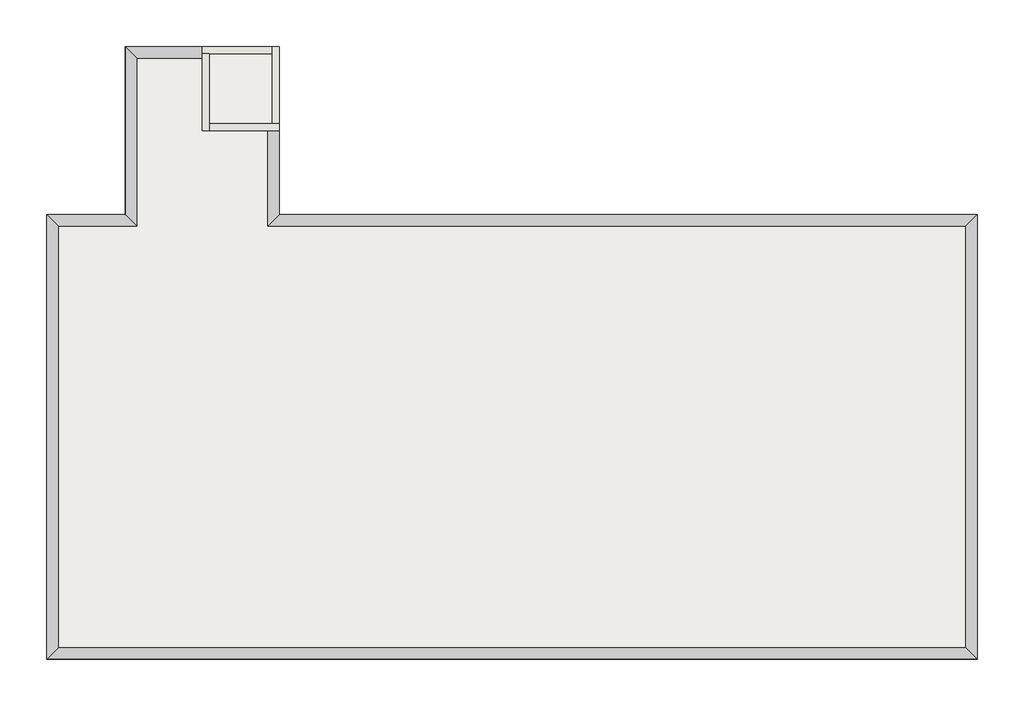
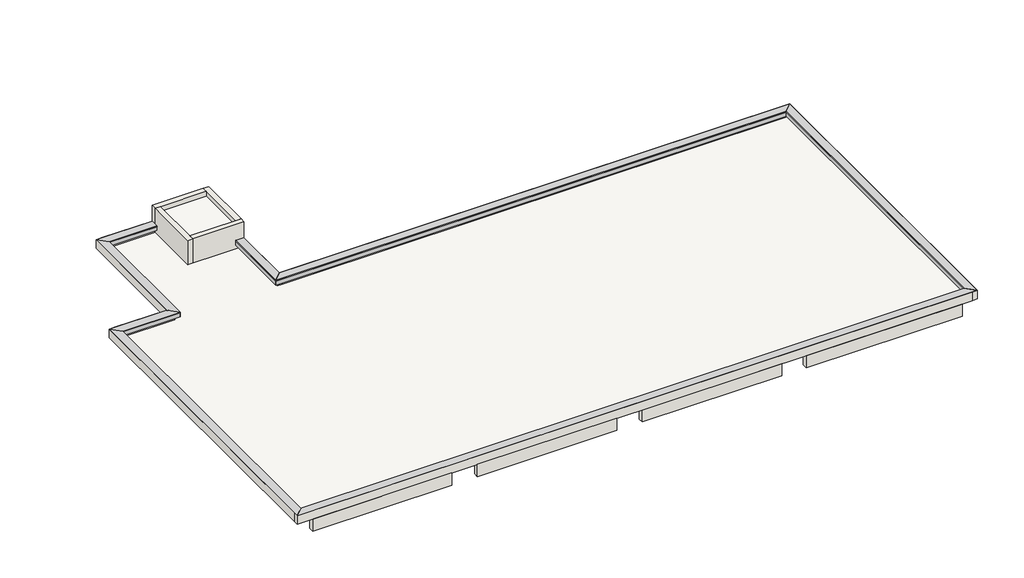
# One storey: 16 proxies, 16 walls, 2 slabs.
"""IFC4 building model written with IfcOpenShell, lengths in millimetres."""

from ifc_helpers import new_model, si_unit, frame, origin, place, context, project, spatial, polyline, outline, extrude, faceted_brep, element, save

model = new_model("IFC4")

# Units and contexts
model_context = context("Model", 3, world=origin())
ifc_project = project(units=[si_unit("LENGTHUNIT", "METRE", prefix="MILLI")], contexts=[model_context])

# Site, building, storey
site = spatial("IfcSite", under=ifc_project)
building = spatial("IfcBuilding", under=site)
storey = spatial("IfcBuildingStorey", under=building, Name="RSL", Elevation=13000.0)

# Proxies
placement = place(None, origin())
element("IfcBuildingElementProxy", 1, Name="Reveals", at=placement, inside=storey, context=model_context, shape_type="Brep", body=[
    faceted_brep([(-4958.7187246, -1750.1171638, 13320.0), (-4958.7187246, -1750.1171638, 13350.0), (-4628.7187246, -1750.1171638, 13350.0), (-4958.7187246, -4480.1171638, 13320.0), (-4628.7187246, -4150.1171638, 13350.0), (-4958.7187246, -4480.1171638, 13350.0)], [[[0, 1, 2]], [[3, 4, 5]], [[1, 0, 3, 5]], [[2, 1, 5, 4]], [[0, 2, 4, 3]]]),
])
element("IfcBuildingElementProxy", 2, Name="Wall Sweeps", at=placement, inside=storey, context=model_context, shape_type="Brep", body=[
    faceted_brep([(-4958.7187246, -1750.1171638, 13160.0), (-4958.7187246, -1750.1171638, 13320.0), (-4628.7187246, -1750.1171638, 13350.0), (-4828.7187246, -1750.1171638, 13160.0), (-4958.7187246, -4480.1171638, 13160.0), (-4828.7187246, -4350.1171638, 13160.0), (-4628.7187246, -4150.1171638, 13350.0), (-4958.7187246, -4480.1171638, 13320.0)], [[[0, 1, 2, 3]], [[4, 5, 6, 7]], [[1, 0, 4, 7]], [[2, 1, 7, 6]], [[3, 2, 6, 5]], [[0, 3, 5, 4]]]),
])
element("IfcBuildingElementProxy", 3, Name="Reveals", at=placement, inside=storey, context=model_context, shape_type="Brep", body=[
    faceted_brep([(-4958.7187246, -4480.1171638, 13320.0), (-4958.7187246, -4480.1171638, 13350.0), (-4628.7187246, -4150.1171638, 13350.0), (14991.2812754, -4480.1171638, 13320.0), (15321.2812754, -4150.1171638, 13350.0), (14991.2812754, -4480.1171638, 13350.0)], [[[0, 1, 2]], [[3, 4, 5]], [[1, 0, 3, 5]], [[2, 1, 5, 4]], [[0, 2, 4, 3]]]),
])
element("IfcBuildingElementProxy", 4, Name="Wall Sweeps", at=placement, inside=storey, context=model_context, shape_type="Brep", body=[
    faceted_brep([(-4958.7187246, -4480.1171638, 13160.0), (-4958.7187246, -4480.1171638, 13320.0), (-4628.7187246, -4150.1171638, 13350.0), (-4828.7187246, -4350.1171638, 13160.0), (14991.2812754, -4480.1171638, 13160.0), (15121.2812754, -4350.1171638, 13160.0), (15321.2812754, -4150.1171638, 13350.0), (14991.2812754, -4480.1171638, 13320.0)], [[[0, 1, 2, 3]], [[4, 5, 6, 7]], [[1, 0, 4, 7]], [[2, 1, 7, 6]], [[3, 2, 6, 5]], [[0, 3, 5, 4]]]),
])
element("IfcBuildingElementProxy", 5, Name="Reveals", at=placement, inside=storey, context=model_context, shape_type="Brep", body=[
    faceted_brep([(14991.2812754, -4480.1171638, 13320.0), (14991.2812754, -4480.1171638, 13350.0), (15321.2812754, -4150.1171638, 13350.0), (14991.2812754, -16540.1171638, 13320.0), (15321.2812754, -16870.1171638, 13350.0), (14991.2812754, -16540.1171638, 13350.0)], [[[0, 1, 2]], [[3, 4, 5]], [[1, 0, 3, 5]], [[2, 1, 5, 4]], [[0, 2, 4, 3]]]),
])
element("IfcBuildingElementProxy", 6, Name="Wall Sweeps", at=placement, inside=storey, context=model_context, shape_type="Brep", body=[
    faceted_brep([(14991.2812754, -4480.1171638, 13160.0), (14991.2812754, -4480.1171638, 13320.0), (15321.2812754, -4150.1171638, 13350.0), (15121.2812754, -4350.1171638, 13160.0), (14991.2812754, -16540.1171638, 13160.0), (15121.2812754, -16670.1171638, 13160.0), (15321.2812754, -16870.1171638, 13350.0), (14991.2812754, -16540.1171638, 13320.0)], [[[0, 1, 2, 3]], [[4, 5, 6, 7]], [[1, 0, 4, 7]], [[2, 1, 7, 6]], [[3, 2, 6, 5]], [[0, 3, 5, 4]]]),
])
element("IfcBuildingElementProxy", 7, Name="Reveals", at=placement, inside=storey, context=model_context, shape_type="Brep", body=[
    faceted_brep([(14991.2812754, -16540.1171638, 13320.0), (14991.2812754, -16540.1171638, 13350.0), (15321.2812754, -16870.1171638, 13350.0), (-10948.7187246, -16540.1171638, 13320.0), (-11278.7187246, -16870.1171638, 13350.0), (-10948.7187246, -16540.1171638, 13350.0)], [[[0, 1, 2]], [[3, 4, 5]], [[1, 0, 3, 5]], [[2, 1, 5, 4]], [[0, 2, 4, 3]]]),
])
element("IfcBuildingElementProxy", 8, Name="Wall Sweeps", at=placement, inside=storey, context=model_context, shape_type="Brep", body=[
    faceted_brep([(14991.2812754, -16540.1171638, 13160.0), (14991.2812754, -16540.1171638, 13320.0), (15321.2812754, -16870.1171638, 13350.0), (15121.2812754, -16670.1171638, 13160.0), (-10948.7187246, -16540.1171638, 13160.0), (-11078.7187246, -16670.1171638, 13160.0), (-11278.7187246, -16870.1171638, 13350.0), (-10948.7187246, -16540.1171638, 13320.0)], [[[0, 1, 2, 3]], [[4, 5, 6, 7]], [[1, 0, 4, 7]], [[2, 1, 7, 6]], [[3, 2, 6, 5]], [[0, 3, 5, 4]]]),
])
element("IfcBuildingElementProxy", 9, Name="Reveals", at=placement, inside=storey, context=model_context, shape_type="Brep", body=[
    faceted_brep([(-10948.7187246, -16540.1171638, 13320.0), (-10948.7187246, -16540.1171638, 13350.0), (-11278.7187246, -16870.1171638, 13350.0), (-10948.7187246, -4480.1171638, 13320.0), (-11278.7187246, -4150.1171638, 13350.0), (-10948.7187246, -4480.1171638, 13350.0)], [[[0, 1, 2]], [[3, 4, 5]], [[1, 0, 3, 5]], [[2, 1, 5, 4]], [[0, 2, 4, 3]]]),
])
element("IfcBuildingElementProxy", 10, Name="Wall Sweeps", at=placement, inside=storey, context=model_context, shape_type="Brep", body=[
    faceted_brep([(-10948.7187246, -16540.1171638, 13160.0), (-10948.7187246, -16540.1171638, 13320.0), (-11278.7187246, -16870.1171638, 13350.0), (-11078.7187246, -16670.1171638, 13160.0), (-10948.7187246, -4480.1171638, 13160.0), (-11078.7187246, -4350.1171638, 13160.0), (-11278.7187246, -4150.1171638, 13350.0), (-10948.7187246, -4480.1171638, 13320.0)], [[[0, 1, 2, 3]], [[4, 5, 6, 7]], [[1, 0, 4, 7]], [[2, 1, 7, 6]], [[3, 2, 6, 5]], [[0, 3, 5, 4]]]),
])
element("IfcBuildingElementProxy", 11, Name="Reveals", at=placement, inside=storey, context=model_context, shape_type="Brep", body=[
    faceted_brep([(-10948.7187246, -4480.1171638, 13320.0), (-10948.7187246, -4480.1171638, 13350.0), (-11278.7187246, -4150.1171638, 13350.0), (-8698.7187246, -4480.1171638, 13320.0), (-9028.7187246, -4150.1171638, 13350.0), (-8698.7187246, -4480.1171638, 13350.0)], [[[0, 1, 2]], [[3, 4, 5]], [[1, 0, 3, 5]], [[2, 1, 5, 4]], [[0, 2, 4, 3]]]),
])
element("IfcBuildingElementProxy", 12, Name="Wall Sweeps", at=placement, inside=storey, context=model_context, shape_type="Brep", body=[
    faceted_brep([(-10948.7187246, -4480.1171638, 13160.0), (-10948.7187246, -4480.1171638, 13320.0), (-11278.7187246, -4150.1171638, 13350.0), (-11078.7187246, -4350.1171638, 13160.0), (-8698.7187246, -4480.1171638, 13160.0), (-8828.7187246, -4350.1171638, 13160.0), (-9028.7187246, -4150.1171638, 13350.0), (-8698.7187246, -4480.1171638, 13320.0)], [[[0, 1, 2, 3]], [[4, 5, 6, 7]], [[1, 0, 4, 7]], [[2, 1, 7, 6]], [[3, 2, 6, 5]], [[0, 3, 5, 4]]]),
])
element("IfcBuildingElementProxy", 13, Name="Reveals", at=placement, inside=storey, context=model_context, shape_type="Brep", body=[
    faceted_brep([(-8698.7187246, -4480.1171638, 13320.0), (-8698.7187246, -4480.1171638, 13350.0), (-9028.7187246, -4150.1171638, 13350.0), (-8698.7187246, 319.8828362, 13320.0), (-9028.7187246, 649.8828362, 13350.0), (-8698.7187246, 319.8828362, 13350.0)], [[[0, 1, 2]], [[3, 4, 5]], [[1, 0, 3, 5]], [[2, 1, 5, 4]], [[0, 2, 4, 3]]]),
])
element("IfcBuildingElementProxy", 14, Name="Wall Sweeps", at=placement, inside=storey, context=model_context, shape_type="Brep", body=[
    faceted_brep([(-8698.7187246, -4480.1171638, 13160.0), (-8698.7187246, -4480.1171638, 13320.0), (-9028.7187246, -4150.1171638, 13350.0), (-8828.7187246, -4350.1171638, 13160.0), (-8698.7187246, 319.8828362, 13160.0), (-8828.7187246, 449.8828362, 13160.0), (-9028.7187246, 649.8828362, 13350.0), (-8698.7187246, 319.8828362, 13320.0)], [[[0, 1, 2, 3]], [[4, 5, 6, 7]], [[1, 0, 4, 7]], [[2, 1, 7, 6]], [[3, 2, 6, 5]], [[0, 3, 5, 4]]]),
])
element("IfcBuildingElementProxy", 15, Name="Reveals", at=placement, inside=storey, context=model_context, shape_type="Brep", body=[
    faceted_brep([(-8698.7187246, 319.8828362, 13320.0), (-8698.7187246, 319.8828362, 13350.0), (-9028.7187246, 649.8828362, 13350.0), (-6828.7187246, 319.8828362, 13320.0), (-6828.7187246, 649.8828362, 13350.0), (-6828.7187246, 319.8828362, 13350.0)], [[[0, 1, 2]], [[3, 4, 5]], [[1, 0, 3, 5]], [[2, 1, 5, 4]], [[0, 2, 4, 3]]]),
])
element("IfcBuildingElementProxy", 16, Name="Wall Sweeps", at=placement, inside=storey, context=model_context, shape_type="Brep", body=[
    faceted_brep([(-8698.7187246, 319.8828362, 13160.0), (-8698.7187246, 319.8828362, 13320.0), (-9028.7187246, 649.8828362, 13350.0), (-8828.7187246, 449.8828362, 13160.0), (-6828.7187246, 319.8828362, 13160.0), (-6828.7187246, 449.8828362, 13160.0), (-6828.7187246, 649.8828362, 13350.0), (-6828.7187246, 319.8828362, 13320.0)], [[[0, 1, 2, 3]], [[4, 5, 6, 7]], [[1, 0, 4, 7]], [[2, 1, 7, 6]], [[3, 2, 6, 5]], [[0, 3, 5, 4]]]),
])

# Slabs
element("IfcSlab", 17, ObjectType="RC150", at=placement, inside=storey, context=model_context, shape_type="SweptSolid", body=[
    extrude(outline(polyline([(-4828.7187246, 449.8828362), (-4828.7187246, -1550.1171638), (-6628.7187246, -1550.1171638), (-6628.7187246, 449.8828362), (-4828.7187246, 449.8828362)])), frame((0.0, 0.0, 13650.0), z_axis=(0.0, 0.0, 1.0), x_axis=(1.0, 0.0, 0.0)), (0.0, 0.0, 1.0), 150.0),
])
element("IfcSlab", 18, ObjectType="RC150", at=placement, inside=storey, context=model_context, shape_type="SweptSolid", body=[
    extrude(outline(polyline([(15121.2812754, -4350.1171638), (15121.2812754, -16670.1171638), (-11078.7187246, -16670.1171638), (-11078.7187246, -4350.1171638), (-8828.7187246, -4350.1171638), (-8828.7187246, 449.8828362), (-6828.7187246, 449.8828362), (-6828.7187246, -1750.1171638), (-4828.7187246, -1750.1171638), (-4828.7187246, -4350.1171638), (15121.2812754, -4350.1171638)])), frame((0.0, 0.0, 12850.0), z_axis=(0.0, 0.0, 1.0), x_axis=(1.0, 0.0, 0.0)), (0.0, 0.0, 1.0), 150.0),
])

# Walls
element("IfcWall", 19, ObjectType="(R)RC200", at=placement, inside=storey, context=model_context, shape_type="SweptSolid", body=[
    extrude(outline(polyline([(-5228.7187246, -16870.1171638), (-10678.7187246, -16870.1171638), (-10678.7187246, -16670.1171638), (-5228.7187246, -16670.1171638), (-5228.7187246, -16870.1171638)])), frame((0.0, 0.0, 12500.0), z_axis=(0.0, 0.0, 1.0), x_axis=(1.0, 0.0, 0.0)), (0.0, 0.0, 1.0), 500.0),
])
element("IfcWall", 20, ObjectType="(R)RC200", at=placement, inside=storey, context=model_context, shape_type="SweptSolid", body=[
    extrude(outline(polyline([(1221.2812754, -16870.1171638), (-4228.7187246, -16870.1171638), (-4228.7187246, -16670.1171638), (1221.2812754, -16670.1171638), (1221.2812754, -16870.1171638)])), frame((0.0, 0.0, 12500.0), z_axis=(0.0, 0.0, 1.0), x_axis=(1.0, 0.0, 0.0)), (0.0, 0.0, 1.0), 500.0),
])
element("IfcWall", 21, ObjectType="(R)RC200", at=placement, inside=storey, context=model_context, shape_type="SweptSolid", body=[
    extrude(outline(polyline([(7671.2812754, -16870.1171638), (2221.2812754, -16870.1171638), (2221.2812754, -16670.1171638), (7671.2812754, -16670.1171638), (7671.2812754, -16870.1171638)])), frame((0.0, 0.0, 12500.0), z_axis=(0.0, 0.0, 1.0), x_axis=(1.0, 0.0, 0.0)), (0.0, 0.0, 1.0), 500.0),
])
element("IfcWall", 22, ObjectType="(R)RC200", at=placement, inside=storey, context=model_context, shape_type="SweptSolid", body=[
    extrude(outline(polyline([(14721.2812754, -16870.1171638), (8621.2812754, -16870.1171638), (8621.2812754, -16670.1171638), (14721.2812754, -16670.1171638), (14721.2812754, -16870.1171638)])), frame((0.0, 0.0, 12500.0), z_axis=(0.0, 0.0, 1.0), x_axis=(1.0, 0.0, 0.0)), (0.0, 0.0, 1.0), 500.0),
])
element("IfcWall", 23, ObjectType="(R)RC200", at=placement, inside=storey, context=model_context, shape_type="Brep", body=[
    faceted_brep([(-6828.7187246, 449.8828362, 14000.0), (-6828.7187246, 449.8828362, 13160.0), (-6828.7187246, 449.8828362, 13000.0), (-6628.7187246, 449.8828362, 13000.0), (-4828.7187246, 449.8828362, 13000.0), (-4828.7187246, 449.8828362, 13650.0), (-4828.7187246, 449.8828362, 13800.0), (-4828.7187246, 449.8828362, 14000.0), (-6628.7187246, 449.8828362, 14000.0), (-6828.7187246, 649.8828362, 13000.0), (-6828.7187246, 649.8828362, 13350.0), (-6828.7187246, 649.8828362, 14000.0), (-4828.7187246, 649.8828362, 14000.0), (-4828.7187246, 649.8828362, 13000.0)], [[[0, 1, 2, 3, 4, 5, 6, 7, 8]], [[9, 10, 11, 12, 13]], [[4, 3, 2, 9, 13]], [[0, 8, 7, 12, 11]], [[7, 6, 5, 4, 13, 12]], [[0, 11, 10, 9, 2, 1]]]),
])
element("IfcWall", 24, ObjectType="(R)RC200", at=placement, inside=storey, context=model_context, shape_type="Brep", body=[
    faceted_brep([(-6628.7187246, -1750.1171638, 13000.0), (-6628.7187246, -1550.1171638, 13000.0), (-6628.7187246, 449.8828362, 13000.0), (-6628.7187246, 449.8828362, 13650.0), (-6628.7187246, 449.8828362, 13800.0), (-6628.7187246, 449.8828362, 14000.0), (-6628.7187246, -1550.1171638, 14000.0), (-6628.7187246, -1750.1171638, 14000.0), (-6828.7187246, -1750.1171638, 13000.0), (-6828.7187246, -1750.1171638, 14000.0), (-6828.7187246, 449.8828362, 14000.0), (-6828.7187246, 449.8828362, 13000.0)], [[[0, 1, 2, 3, 4, 5, 6, 7]], [[8, 9, 10, 11]], [[2, 1, 0, 8, 11]], [[7, 6, 5, 10, 9]], [[0, 7, 9, 8]], [[2, 11, 10, 5, 4, 3]]]),
])
element("IfcWall", 25, ObjectType="(R)RC200", at=placement, inside=storey, context=model_context, shape_type="Brep", body=[
    faceted_brep([(-4628.7187246, -1550.1171638, 14000.0), (-4628.7187246, -1550.1171638, 13000.0), (-4828.7187246, -1550.1171638, 13000.0), (-6628.7187246, -1550.1171638, 13000.0), (-6628.7187246, -1550.1171638, 13650.0), (-6628.7187246, -1550.1171638, 13800.0), (-6628.7187246, -1550.1171638, 14000.0), (-4828.7187246, -1550.1171638, 14000.0), (-4628.7187246, -1750.1171638, 13000.0), (-4628.7187246, -1750.1171638, 13350.0), (-4628.7187246, -1750.1171638, 14000.0), (-6628.7187246, -1750.1171638, 14000.0), (-6628.7187246, -1750.1171638, 13000.0), (-4828.7187246, -1750.1171638, 13000.0)], [[[0, 1, 2, 3, 4, 5, 6, 7]], [[8, 9, 10, 11, 12, 13]], [[3, 2, 1, 8, 13, 12]], [[0, 7, 6, 11, 10]], [[6, 5, 4, 3, 12, 11]], [[0, 10, 9, 8, 1]]]),
])
element("IfcWall", 26, ObjectType="(R)RC200", at=placement, inside=storey, context=model_context, shape_type="Brep", body=[
    faceted_brep([(-4828.7187246, 649.8828362, 13000.0), (-4828.7187246, 449.8828362, 13000.0), (-4828.7187246, -1550.1171638, 13000.0), (-4828.7187246, -1550.1171638, 13650.0), (-4828.7187246, -1550.1171638, 13800.0), (-4828.7187246, -1550.1171638, 14000.0), (-4828.7187246, 449.8828362, 14000.0), (-4828.7187246, 649.8828362, 14000.0), (-4628.7187246, 649.8828362, 13000.0), (-4628.7187246, 649.8828362, 14000.0), (-4628.7187246, -1550.1171638, 14000.0), (-4628.7187246, -1550.1171638, 13000.0)], [[[0, 1, 2, 3, 4, 5, 6, 7]], [[8, 9, 10, 11]], [[2, 1, 0, 8, 11]], [[7, 6, 5, 10, 9]], [[0, 7, 9, 8]], [[2, 11, 10, 5, 4, 3]]]),
])
element("IfcWall", 27, ObjectType="パラペット200 アゴ", at=placement, inside=storey, context=model_context, shape_type="Brep", body=[
    faceted_brep([(-4828.7187246, -1750.1171638, 13000.0), (-4828.7187246, -4350.1171638, 13000.0), (-4828.7187246, -4350.1171638, 13160.0), (-4828.7187246, -1750.1171638, 13160.0), (-4628.7187246, -4350.1171638, 13000.0), (-4628.7187246, -4150.1171638, 13000.0), (-4628.7187246, -1750.1171638, 13000.0), (-4628.7187246, -1750.1171638, 13350.0), (-4628.7187246, -4150.1171638, 13350.0), (-4628.7187246, -4350.1171638, 13160.0)], [[[0, 1, 2, 3]], [[4, 5, 6, 7, 8, 9]], [[1, 0, 6, 5, 4]], [[2, 8, 7, 3]], [[7, 6, 0, 3]], [[1, 4, 9, 2]], [[8, 2, 9]]]),
])
element("IfcWall", 28, ObjectType="パラペット200 アゴ", at=placement, inside=storey, context=model_context, shape_type="Brep", body=[
    faceted_brep([(-4628.7187246, -4350.1171638, 13000.0), (15121.2812754, -4350.1171638, 13000.0), (15321.2812754, -4350.1171638, 13000.0), (15321.2812754, -4350.1171638, 13350.0), (15121.2812754, -4350.1171638, 13160.0), (-4628.7187246, -4350.1171638, 13160.0), (15321.2812754, -4150.1171638, 13000.0), (-4628.7187246, -4150.1171638, 13000.0), (-4628.7187246, -4150.1171638, 13350.0), (15321.2812754, -4150.1171638, 13350.0)], [[[0, 1, 2, 3, 4, 5]], [[6, 7, 8, 9]], [[2, 1, 0, 7, 6]], [[4, 9, 8, 5]], [[8, 7, 0, 5]], [[3, 2, 6, 9]], [[9, 4, 3]]]),
])
element("IfcWall", 29, ObjectType="パラペット200 アゴ", at=placement, inside=storey, context=model_context, shape_type="Brep", body=[
    faceted_brep([(15121.2812754, -4350.1171638, 13000.0), (15121.2812754, -16670.1171638, 13000.0), (15121.2812754, -16870.1171638, 13000.0), (15121.2812754, -16870.1171638, 13350.0), (15121.2812754, -16670.1171638, 13160.0), (15121.2812754, -4350.1171638, 13160.0), (15321.2812754, -16870.1171638, 13000.0), (15321.2812754, -4350.1171638, 13000.0), (15321.2812754, -4350.1171638, 13350.0), (15321.2812754, -16870.1171638, 13350.0)], [[[0, 1, 2, 3, 4, 5]], [[6, 7, 8, 9]], [[2, 1, 0, 7, 6]], [[4, 9, 8, 5]], [[8, 7, 0, 5]], [[3, 2, 6, 9]], [[9, 4, 3]]]),
])
element("IfcWall", 30, ObjectType="パラペット200 アゴ", at=placement, inside=storey, context=model_context, shape_type="Brep", body=[
    faceted_brep([(15121.2812754, -16670.1171638, 13000.0), (-11078.7187246, -16670.1171638, 13000.0), (-11278.7187246, -16670.1171638, 13000.0), (-11278.7187246, -16670.1171638, 13350.0), (-11078.7187246, -16670.1171638, 13160.0), (15121.2812754, -16670.1171638, 13160.0), (-11278.7187246, -16870.1171638, 13000.0), (15121.2812754, -16870.1171638, 13000.0), (15121.2812754, -16870.1171638, 13350.0), (-11278.7187246, -16870.1171638, 13350.0)], [[[0, 1, 2, 3, 4, 5]], [[6, 7, 8, 9]], [[2, 1, 0, 7, 6]], [[4, 9, 8, 5]], [[8, 7, 0, 5]], [[3, 2, 6, 9]], [[9, 4, 3]]]),
])
element("IfcWall", 31, ObjectType="パラペット200 アゴ", at=placement, inside=storey, context=model_context, shape_type="Brep", body=[
    faceted_brep([(-11078.7187246, -16670.1171638, 13000.0), (-11078.7187246, -4350.1171638, 13000.0), (-11078.7187246, -4150.1171638, 13000.0), (-11078.7187246, -4150.1171638, 13350.0), (-11078.7187246, -4350.1171638, 13160.0), (-11078.7187246, -16670.1171638, 13160.0), (-11278.7187246, -4150.1171638, 13000.0), (-11278.7187246, -16670.1171638, 13000.0), (-11278.7187246, -16670.1171638, 13350.0), (-11278.7187246, -4150.1171638, 13350.0)], [[[0, 1, 2, 3, 4, 5]], [[6, 7, 8, 9]], [[2, 1, 0, 7, 6]], [[4, 9, 8, 5]], [[8, 7, 0, 5]], [[3, 2, 6, 9]], [[9, 4, 3]]]),
])
element("IfcWall", 32, ObjectType="パラペット200 アゴ", at=placement, inside=storey, context=model_context, shape_type="Brep", body=[
    faceted_brep([(-11078.7187246, -4350.1171638, 13000.0), (-8828.7187246, -4350.1171638, 13000.0), (-8828.7187246, -4350.1171638, 13160.0), (-11078.7187246, -4350.1171638, 13160.0), (-8828.7187246, -4150.1171638, 13000.0), (-9028.7187246, -4150.1171638, 13000.0), (-11078.7187246, -4150.1171638, 13000.0), (-11078.7187246, -4150.1171638, 13350.0), (-9028.7187246, -4150.1171638, 13350.0), (-8828.7187246, -4150.1171638, 13160.0)], [[[0, 1, 2, 3]], [[4, 5, 6, 7, 8, 9]], [[1, 0, 6, 5, 4]], [[2, 8, 7, 3]], [[7, 6, 0, 3]], [[1, 4, 9, 2]], [[8, 2, 9]]]),
])
element("IfcWall", 33, ObjectType="パラペット200 アゴ", at=placement, inside=storey, context=model_context, shape_type="Brep", body=[
    faceted_brep([(-8828.7187246, -4150.1171638, 13000.0), (-8828.7187246, 449.8828362, 13000.0), (-8828.7187246, 649.8828362, 13000.0), (-8828.7187246, 649.8828362, 13350.0), (-8828.7187246, 449.8828362, 13160.0), (-8828.7187246, -4150.1171638, 13160.0), (-9028.7187246, 649.8828362, 13000.0), (-9028.7187246, -4150.1171638, 13000.0), (-9028.7187246, -4150.1171638, 13350.0), (-9028.7187246, 649.8828362, 13350.0)], [[[0, 1, 2, 3, 4, 5]], [[6, 7, 8, 9]], [[2, 1, 0, 7, 6]], [[4, 9, 8, 5]], [[8, 7, 0, 5]], [[3, 2, 6, 9]], [[9, 4, 3]]]),
])
element("IfcWall", 34, ObjectType="パラペット200 アゴ", at=placement, inside=storey, context=model_context, shape_type="SweptSolid", body=[
    extrude(outline(polyline([(649.8828362, 13350.0), (649.8828362, 13000.0), (449.8828362, 13000.0), (449.8828362, 13160.0), (649.8828362, 13350.0)])), frame((-8828.7187246, 0.0, 0.0), z_axis=(1.0, 0.0, 0.0), x_axis=(0.0, 1.0, 0.0)), (0.0, 0.0, 1.0), 2000.0),
])

save(model, "model.ifc")
